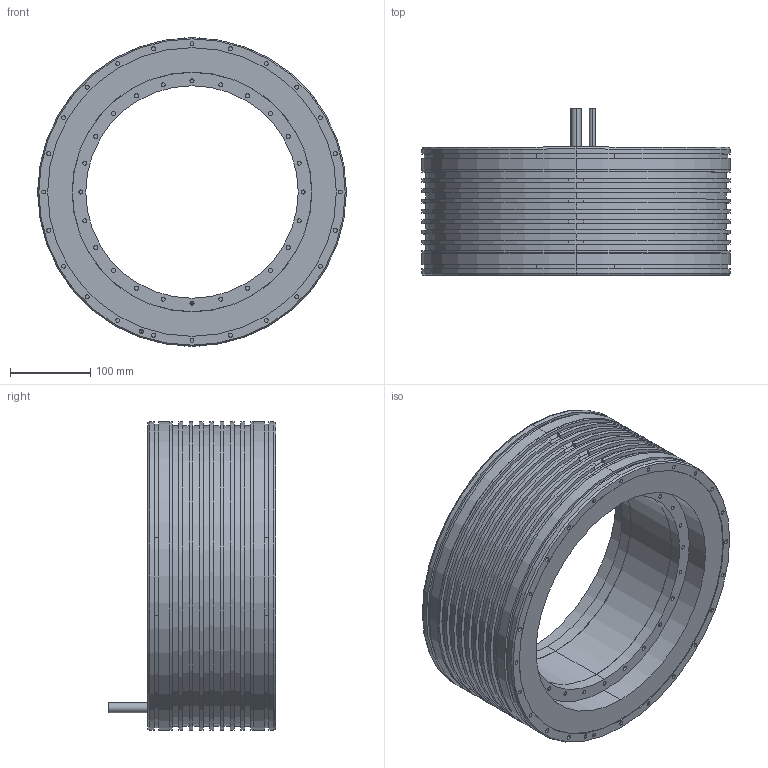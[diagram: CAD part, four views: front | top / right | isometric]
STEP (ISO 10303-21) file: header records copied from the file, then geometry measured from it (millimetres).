
FILE_DESCRIPTION (( 'STEP AP203' ), '1' );
FILE_NAME ('TM-2-AA.STEP', '2020-10-20T05:56:03', ( '' ), ( '' ), 'SwSTEP 2.0', 'SolidWorks 2015', '' );
FILE_SCHEMA (( 'CONFIG_CONTROL_DESIGN' ));
Length unit declared in the file: millimetre
Products named in the file (3): TM-2-AX_rotor_TM-2-AA_rotor; TM-2-AX_stator_TM-2-AA_stator; TM-2-AA
Assembly tree (2 placements, depth 2):
  TM-2-AA
    TM-2-AX_stator_TM-2-AA_stator
    TM-2-AX_rotor_TM-2-AA_rotor
Bounding box: 385 x 209 x 385 mm (x, y, z)
Volume: 8354278.2 mm3; surface area: 772623.6 mm2
Topology: 2 solids, 2 shells, 418 faces, 876 edges, 564 vertices
Faces by surface type: cylinder 257, plane 145, cone 16
Entity records: 11611 total; most frequent: DIRECTION 2232, CARTESIAN_POINT 1855, ORIENTED_EDGE 1736, AXIS2_PLACEMENT_3D 941, EDGE_CURVE 868, VERTEX_POINT 564, EDGE_LOOP 532, CIRCLE 518
